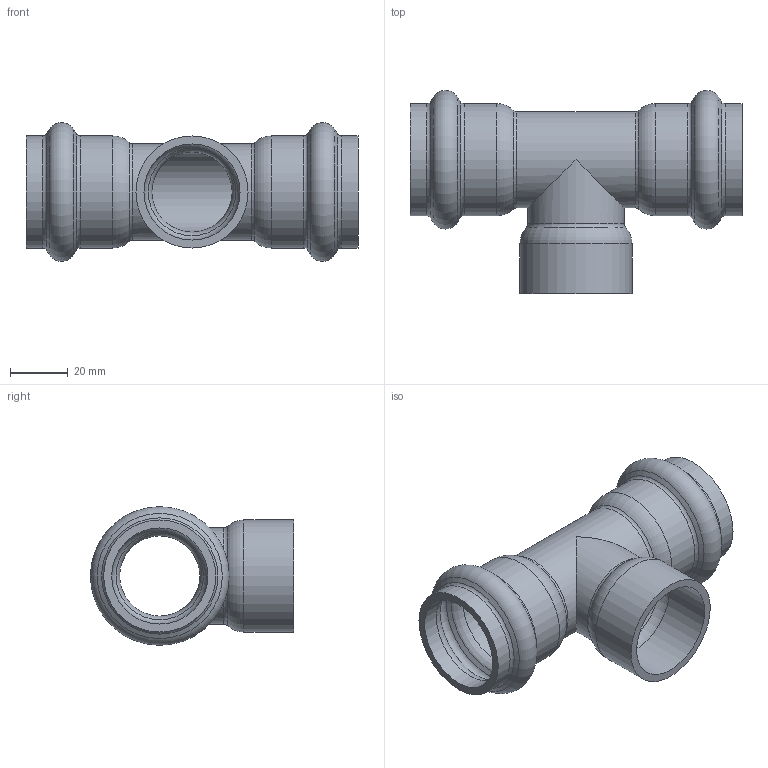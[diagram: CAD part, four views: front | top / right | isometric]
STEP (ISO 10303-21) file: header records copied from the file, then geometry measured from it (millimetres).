
FILE_DESCRIPTION(/* description */ ('VIC TEE RED. BRANCH STYLE P588 (P x P x F)','CAx-IF Rec.Pracs.---Representation and Presentation of Product Manufacturing Information (PMI)---4.0---2014-10-13'),/* implementation_level */ '2;1');
FILE_NAME(/* name */ 'C:\Users\Vjadhav\AppData\Roaming\Autodesk\ApplicationPlugins\Back Up\Victaulic_SS-Vic-Press-TP 304_Tee Threaded_Style P588 (VPxFPT)\Victaulic_SS-Vic-Press-TP 304_Tee Threaded_Style P588 (VPxFPT)_01.0x01.0 (25x25).stp',/* time_stamp */ '2020-08-12T18:49:44+05:00',/* author */ ('cgray'),/* organization */ ('Victaulic'),/* preprocessor_version */ 'ST-DEVELOPER v17.2',/* originating_system */ 'Autodesk Inventor 2019',/* authorisation */ '');
FILE_SCHEMA (('AP242_MANAGED_MODEL_BASED_3D_ENGINEERING_MIM_LF { 1 0 10303 442 1 1 4 }'));
Length unit declared in the file: inch
Products named in the file (1): P588-01.0x01.0
Bounding box: 115.32 x 70.56 x 48.16 mm (x, y, z)
Volume: 46636.5 mm3; surface area: 34612.9 mm2
Topology: 1 solids, 1 shells, 49 faces, 184 edges, 136 vertices
Faces by surface type: torus 24, cylinder 14, cone 8, plane 3
Full cylindrical faces by diameter (mm): 27.864 x2, 33.401 x7, 38.938 x5
Entity records: 2307 total; most frequent: DIRECTION 470, CARTESIAN_POINT 387, ORIENTED_EDGE 368, AXIS2_PLACEMENT_3D 223, EDGE_CURVE 184, CIRCLE 152, VERTEX_POINT 136, EDGE_LOOP 52
